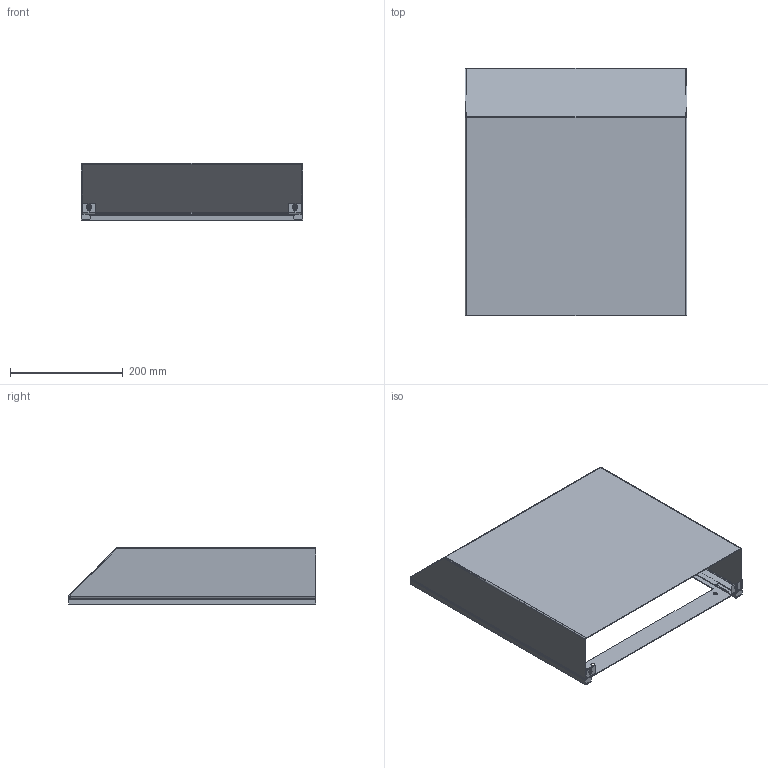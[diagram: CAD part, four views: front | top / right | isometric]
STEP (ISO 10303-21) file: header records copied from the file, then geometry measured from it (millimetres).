
FILE_DESCRIPTION (( 'STEP AP214' ), '1' );
FILE_NAME ('18182000020_Step.STEP', '2017-06-27T17:41:41', ( '' ), ( '' ), 'SwSTEP 2.0', 'SolidWorks 2015', '' );
FILE_SCHEMA (( 'AUTOMOTIVE_DESIGN' ));
Length unit declared in the file: millimetre
Products named in the file (5): Step File Plate; 815073192; 80064-010_304 Stainless Steel; Pem Nut (part of cover); 18182000020_Step
Assembly tree (5 placements, depth 2):
  18182000020_Step
    Pem Nut (part of cover)  x2
    80064-010_304 Stainless Steel
    815073192
    Step File Plate
Bounding box: 394 x 440.14 x 101.53 mm (x, y, z)
Volume: 487140.3 mm3; surface area: 756282.1 mm2
Topology: 4 solids, 7 shells, 398 faces, 1058 edges, 670 vertices
Faces by surface type: plane 283, cylinder 85, cone 12, bspline 12, torus 6
Entity records: 10653 total; most frequent: CARTESIAN_POINT 2249, ORIENTED_EDGE 1504, DIRECTION 1414, EDGE_CURVE 784, VECTOR 600, LINE 600, VERTEX_POINT 492, AXIS2_PLACEMENT_3D 407
